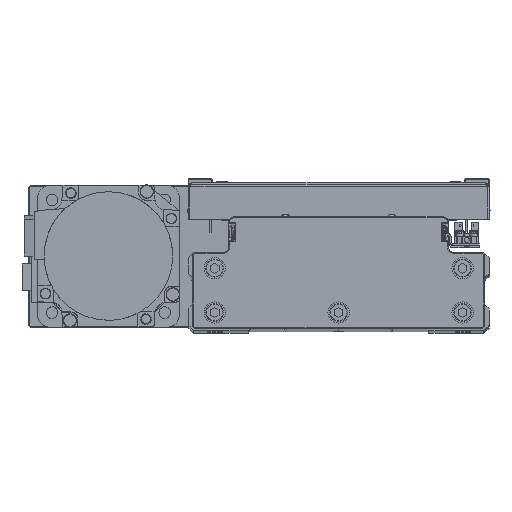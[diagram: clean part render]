
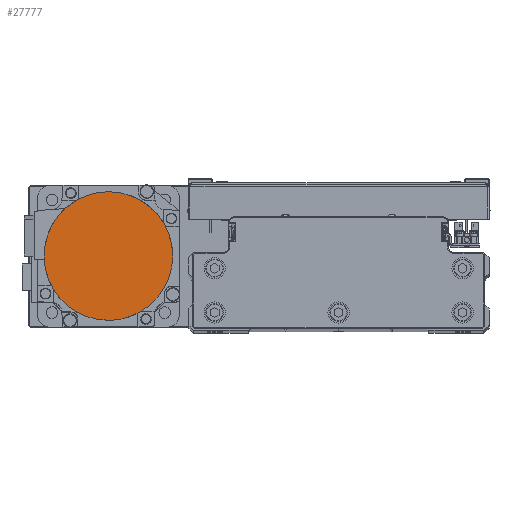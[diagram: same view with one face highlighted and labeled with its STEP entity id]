
A CAD part, top view. The second image highlights one B-rep face of the part: STEP entity #27777.
In plain terms, the highlighted planar face has unit normal (0, 0, 1) as drawn and (0, 0, -1) by its records, which use the part's own axes.
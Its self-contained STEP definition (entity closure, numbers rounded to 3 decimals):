
#175 = VERTEX_POINT ( 'NONE', #30912 ) ;
#209 = DIRECTION ( 'NONE',  ( -1., 0., 0. ) ) ;
#1839 = CARTESIAN_POINT ( 'NONE',  ( -31.502, -18.192, -122.2 ) ) ;
#2195 = CARTESIAN_POINT ( 'NONE',  ( -27.348, 23.988, -122.2 ) ) ;
#2540 = CARTESIAN_POINT ( 'NONE',  ( 0., 36.3, -122.2 ) ) ;
#4274 = CARTESIAN_POINT ( 'NONE',  ( 36.3, 0., -122.2 ) ) ;
#4311 = CARTESIAN_POINT ( 'NONE',  ( 0., 0., -122.2 ) ) ;
#5255 = CARTESIAN_POINT ( 'NONE',  ( -35.139, -9.412, -122.2 ) ) ;
#5469 = CARTESIAN_POINT ( 'NONE',  ( -2.376, -36.3, -122.2 ) ) ;
#6925 = ORIENTED_EDGE ( 'NONE', *, *, #7991, .F. ) ;
#7178 = B_SPLINE_CURVE_WITH_KNOTS ( 'NONE', 3,
 ( #8663, #22479, #36318, #5255, #19073, #32888, #1839, #15670, #29494, #43345, #12280, #26109, #39943, #8870, #22690, #36525, #5469, #19295 ),
 .UNSPECIFIED., .F., .F.,
 ( 4, 2, 2, 2, 2, 2, 2, 2, 4 ),
 ( 0., 0.125, 0.25, 0.375, 0.5, 0.625, 0.75, 0.875, 1. ),
 .UNSPECIFIED. ) ;
#7952 = CARTESIAN_POINT ( 'NONE',  ( 0., 36.3, -122.2 ) ) ;
#7991 = EDGE_CURVE ( 'NONE', #11241, #32283, #18563, .T. ) ;
#8663 = CARTESIAN_POINT ( 'NONE',  ( -36.3, 0., -122.2 ) ) ;
#8870 = CARTESIAN_POINT ( 'NONE',  ( -11.696, -34.446, -122.2 ) ) ;
#9216 = CARTESIAN_POINT ( 'NONE',  ( -36.3, 2.376, -122.2 ) ) ;
#9565 = CARTESIAN_POINT ( 'NONE',  ( -22.143, 28.862, -122.2 ) ) ;
#11154 = AXIS2_PLACEMENT_3D ( 'NONE', #4311, #18143, #31943 ) ;
#11241 = VERTEX_POINT ( 'NONE', #4274 ) ;
#12280 = CARTESIAN_POINT ( 'NONE',  ( -22.143, -28.862, -122.2 ) ) ;
#12595 = CARTESIAN_POINT ( 'NONE',  ( -34.446, 11.696, -122.2 ) ) ;
#12956 = CARTESIAN_POINT ( 'NONE',  ( 0., 0., -122.2 ) ) ;
#12977 = CARTESIAN_POINT ( 'NONE',  ( -11.696, 34.446, -122.2 ) ) ;
#15670 = CARTESIAN_POINT ( 'NONE',  ( -28.862, -22.143, -122.2 ) ) ;
#15797 = ORIENTED_EDGE ( 'NONE', *, *, #44625, .F. ) ;
#16013 = CARTESIAN_POINT ( 'NONE',  ( -28.862, 22.143, -122.2 ) ) ;
#16261 = EDGE_LOOP ( 'NONE', ( #23862, #20246, #15797, #6925 ) ) ;
#16372 = CARTESIAN_POINT ( 'NONE',  ( -2.376, 36.3, -122.2 ) ) ;
#17218 = CIRCLE ( 'NONE', #42539, 36.3 ) ;
#17348 = VERTEX_POINT ( 'NONE', #20143 ) ;
#17455 = CARTESIAN_POINT ( 'NONE',  ( 0., 0., -122.2 ) ) ;
#18143 = DIRECTION ( 'NONE',  ( 0., 0., 1. ) ) ;
#18563 = CIRCLE ( 'NONE', #43893, 36.3 ) ;
#19073 = CARTESIAN_POINT ( 'NONE',  ( -34.446, -11.696, -122.2 ) ) ;
#19295 = CARTESIAN_POINT ( 'NONE',  ( 0., -36.3, -122.2 ) ) ;
#20143 = CARTESIAN_POINT ( 'NONE',  ( 0., -36.3, -122.2 ) ) ;
#20246 = ORIENTED_EDGE ( 'NONE', *, *, #26234, .F. ) ;
#22479 = CARTESIAN_POINT ( 'NONE',  ( -36.3, -2.376, -122.2 ) ) ;
#22690 = CARTESIAN_POINT ( 'NONE',  ( -9.412, -35.139, -122.2 ) ) ;
#23042 = CARTESIAN_POINT ( 'NONE',  ( -36.3, 0., -122.2 ) ) ;
#23862 = ORIENTED_EDGE ( 'NONE', *, *, #35025, .F. ) ;
#24916 = FACE_OUTER_BOUND ( 'NONE', #16261, .T. ) ;
#26109 = CARTESIAN_POINT ( 'NONE',  ( -18.192, -31.502, -122.2 ) ) ;
#26234 = EDGE_CURVE ( 'NONE', #175, #17348, #7178, .T. ) ;
#26430 = CARTESIAN_POINT ( 'NONE',  ( -35.139, 9.412, -122.2 ) ) ;
#26773 = DIRECTION ( 'NONE',  ( 0., 0., 1. ) ) ;
#26796 = CARTESIAN_POINT ( 'NONE',  ( -16.086, 32.628, -122.2 ) ) ;
#27777 = ADVANCED_FACE ( 'NONE', ( #24916 ), #35384, .F. ) ;
#29494 = CARTESIAN_POINT ( 'NONE',  ( -27.348, -23.988, -122.2 ) ) ;
#29825 = CARTESIAN_POINT ( 'NONE',  ( -31.502, 18.192, -122.2 ) ) ;
#30187 = CARTESIAN_POINT ( 'NONE',  ( -4.752, 36.066, -122.2 ) ) ;
#30912 = CARTESIAN_POINT ( 'NONE',  ( -36.3, 0., -122.2 ) ) ;
#31264 = DIRECTION ( 'NONE',  ( 0., 0., 1. ) ) ;
#31943 = DIRECTION ( 'NONE',  ( 1., 0., 0. ) ) ;
#32283 = VERTEX_POINT ( 'NONE', #7952 ) ;
#32888 = CARTESIAN_POINT ( 'NONE',  ( -32.628, -16.086, -122.2 ) ) ;
#33250 = CARTESIAN_POINT ( 'NONE',  ( -23.988, 27.348, -122.2 ) ) ;
#33441 = B_SPLINE_CURVE_WITH_KNOTS ( 'NONE', 3,
 ( #2540, #16372, #30187, #44029, #12977, #26796, #40633, #9565, #33250, #2195, #16013, #29825, #43660, #12595, #26430, #40271, #9216, #23042 ),
 .UNSPECIFIED., .F., .F.,
 ( 4, 2, 2, 2, 2, 2, 2, 2, 4 ),
 ( 0., 0.125, 0.25, 0.375, 0.5, 0.625, 0.75, 0.875, 1. ),
 .UNSPECIFIED. ) ;
#35025 = EDGE_CURVE ( 'NONE', #17348, #11241, #17218, .T. ) ;
#35384 = PLANE ( 'NONE',  #11154 ) ;
#36318 = CARTESIAN_POINT ( 'NONE',  ( -36.066, -4.752, -122.2 ) ) ;
#36525 = CARTESIAN_POINT ( 'NONE',  ( -4.752, -36.066, -122.2 ) ) ;
#39943 = CARTESIAN_POINT ( 'NONE',  ( -16.086, -32.628, -122.2 ) ) ;
#40271 = CARTESIAN_POINT ( 'NONE',  ( -36.066, 4.752, -122.2 ) ) ;
#40612 = DIRECTION ( 'NONE',  ( -1., 0., 0. ) ) ;
#40633 = CARTESIAN_POINT ( 'NONE',  ( -18.192, 31.502, -122.2 ) ) ;
#42539 = AXIS2_PLACEMENT_3D ( 'NONE', #12956, #26773, #40612 ) ;
#43345 = CARTESIAN_POINT ( 'NONE',  ( -23.988, -27.348, -122.2 ) ) ;
#43660 = CARTESIAN_POINT ( 'NONE',  ( -32.628, 16.086, -122.2 ) ) ;
#43893 = AXIS2_PLACEMENT_3D ( 'NONE', #17455, #31264, #209 ) ;
#44029 = CARTESIAN_POINT ( 'NONE',  ( -9.412, 35.139, -122.2 ) ) ;
#44625 = EDGE_CURVE ( 'NONE', #32283, #175, #33441, .T. ) ;
